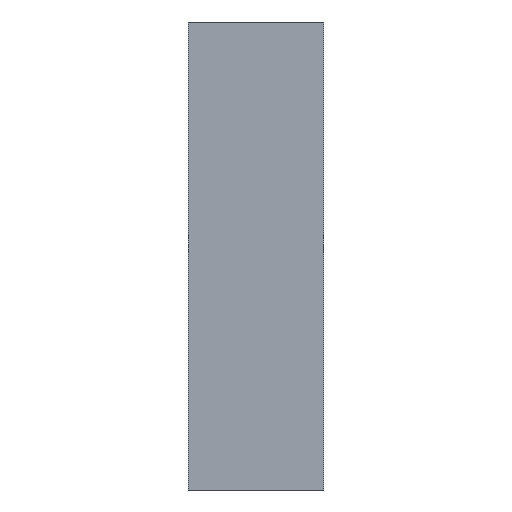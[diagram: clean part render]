
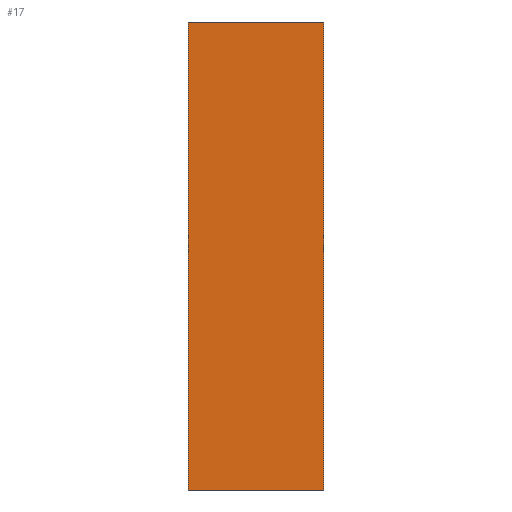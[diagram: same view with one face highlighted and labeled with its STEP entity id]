
A CAD part, left-side view. The second image highlights one B-rep face of the part: STEP entity #17.
In plain terms, the highlighted planar face has unit normal (-1, 0, 0).
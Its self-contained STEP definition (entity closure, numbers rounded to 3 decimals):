
#17 = ADVANCED_FACE('',(#18),#32,.F.);
#18 = FACE_BOUND('',#19,.F.);
#19 = EDGE_LOOP('',(#20,#55,#83,#111));
#20 = ORIENTED_EDGE('',*,*,#21,.F.);
#21 = EDGE_CURVE('',#22,#24,#26,.T.);
#22 = VERTEX_POINT('',#23);
#23 = CARTESIAN_POINT('',(0.,0.,0.));
#24 = VERTEX_POINT('',#25);
#25 = CARTESIAN_POINT('',(0.,0.,131.762));
#26 = SURFACE_CURVE('',#27,(#31,#43),.PCURVE_S1.);
#27 = LINE('',#28,#29);
#28 = CARTESIAN_POINT('',(0.,0.,0.));
#29 = VECTOR('',#30,1.);
#30 = DIRECTION('',(0.,0.,1.));
#31 = PCURVE('',#32,#37);
#32 = PLANE('',#33);
#33 = AXIS2_PLACEMENT_3D('',#34,#35,#36);
#34 = CARTESIAN_POINT('',(0.,0.,0.));
#35 = DIRECTION('',(1.,0.,0.));
#36 = DIRECTION('',(0.,0.,1.));
#37 = DEFINITIONAL_REPRESENTATION('',(#38),#42);
#38 = LINE('',#39,#40);
#39 = CARTESIAN_POINT('',(0.,0.));
#40 = VECTOR('',#41,1.);
#41 = DIRECTION('',(1.,0.));
#42 = ( GEOMETRIC_REPRESENTATION_CONTEXT(2) 
PARAMETRIC_REPRESENTATION_CONTEXT() REPRESENTATION_CONTEXT('2D SPACE',''
  ) );
#43 = PCURVE('',#44,#49);
#44 = PLANE('',#45);
#45 = AXIS2_PLACEMENT_3D('',#46,#47,#48);
#46 = CARTESIAN_POINT('',(0.,0.,0.));
#47 = DIRECTION('',(0.,1.,0.));
#48 = DIRECTION('',(0.,0.,1.));
#49 = DEFINITIONAL_REPRESENTATION('',(#50),#54);
#50 = LINE('',#51,#52);
#51 = CARTESIAN_POINT('',(0.,0.));
#52 = VECTOR('',#53,1.);
#53 = DIRECTION('',(1.,0.));
#54 = ( GEOMETRIC_REPRESENTATION_CONTEXT(2) 
PARAMETRIC_REPRESENTATION_CONTEXT() REPRESENTATION_CONTEXT('2D SPACE',''
  ) );
#55 = ORIENTED_EDGE('',*,*,#56,.T.);
#56 = EDGE_CURVE('',#22,#57,#59,.T.);
#57 = VERTEX_POINT('',#58);
#58 = CARTESIAN_POINT('',(0.,38.1,0.));
#59 = SURFACE_CURVE('',#60,(#64,#71),.PCURVE_S1.);
#60 = LINE('',#61,#62);
#61 = CARTESIAN_POINT('',(0.,0.,0.));
#62 = VECTOR('',#63,1.);
#63 = DIRECTION('',(0.,1.,0.));
#64 = PCURVE('',#32,#65);
#65 = DEFINITIONAL_REPRESENTATION('',(#66),#70);
#66 = LINE('',#67,#68);
#67 = CARTESIAN_POINT('',(0.,0.));
#68 = VECTOR('',#69,1.);
#69 = DIRECTION('',(0.,-1.));
#70 = ( GEOMETRIC_REPRESENTATION_CONTEXT(2) 
PARAMETRIC_REPRESENTATION_CONTEXT() REPRESENTATION_CONTEXT('2D SPACE',''
  ) );
#71 = PCURVE('',#72,#77);
#72 = PLANE('',#73);
#73 = AXIS2_PLACEMENT_3D('',#74,#75,#76);
#74 = CARTESIAN_POINT('',(0.,0.,0.));
#75 = DIRECTION('',(0.,0.,1.));
#76 = DIRECTION('',(1.,0.,0.));
#77 = DEFINITIONAL_REPRESENTATION('',(#78),#82);
#78 = LINE('',#79,#80);
#79 = CARTESIAN_POINT('',(0.,0.));
#80 = VECTOR('',#81,1.);
#81 = DIRECTION('',(0.,1.));
#82 = ( GEOMETRIC_REPRESENTATION_CONTEXT(2) 
PARAMETRIC_REPRESENTATION_CONTEXT() REPRESENTATION_CONTEXT('2D SPACE',''
  ) );
#83 = ORIENTED_EDGE('',*,*,#84,.T.);
#84 = EDGE_CURVE('',#57,#85,#87,.T.);
#85 = VERTEX_POINT('',#86);
#86 = CARTESIAN_POINT('',(0.,38.1,131.762));
#87 = SURFACE_CURVE('',#88,(#92,#99),.PCURVE_S1.);
#88 = LINE('',#89,#90);
#89 = CARTESIAN_POINT('',(0.,38.1,0.));
#90 = VECTOR('',#91,1.);
#91 = DIRECTION('',(0.,0.,1.));
#92 = PCURVE('',#32,#93);
#93 = DEFINITIONAL_REPRESENTATION('',(#94),#98);
#94 = LINE('',#95,#96);
#95 = CARTESIAN_POINT('',(0.,-38.1));
#96 = VECTOR('',#97,1.);
#97 = DIRECTION('',(1.,0.));
#98 = ( GEOMETRIC_REPRESENTATION_CONTEXT(2) 
PARAMETRIC_REPRESENTATION_CONTEXT() REPRESENTATION_CONTEXT('2D SPACE',''
  ) );
#99 = PCURVE('',#100,#105);
#100 = PLANE('',#101);
#101 = AXIS2_PLACEMENT_3D('',#102,#103,#104);
#102 = CARTESIAN_POINT('',(0.,38.1,0.));
#103 = DIRECTION('',(0.,1.,0.));
#104 = DIRECTION('',(0.,0.,1.));
#105 = DEFINITIONAL_REPRESENTATION('',(#106),#110);
#106 = LINE('',#107,#108);
#107 = CARTESIAN_POINT('',(0.,0.));
#108 = VECTOR('',#109,1.);
#109 = DIRECTION('',(1.,0.));
#110 = ( GEOMETRIC_REPRESENTATION_CONTEXT(2) 
PARAMETRIC_REPRESENTATION_CONTEXT() REPRESENTATION_CONTEXT('2D SPACE',''
  ) );
#111 = ORIENTED_EDGE('',*,*,#112,.F.);
#112 = EDGE_CURVE('',#24,#85,#113,.T.);
#113 = SURFACE_CURVE('',#114,(#118,#125),.PCURVE_S1.);
#114 = LINE('',#115,#116);
#115 = CARTESIAN_POINT('',(0.,0.,131.762));
#116 = VECTOR('',#117,1.);
#117 = DIRECTION('',(0.,1.,0.));
#118 = PCURVE('',#32,#119);
#119 = DEFINITIONAL_REPRESENTATION('',(#120),#124);
#120 = LINE('',#121,#122);
#121 = CARTESIAN_POINT('',(131.762,0.));
#122 = VECTOR('',#123,1.);
#123 = DIRECTION('',(0.,-1.));
#124 = ( GEOMETRIC_REPRESENTATION_CONTEXT(2) 
PARAMETRIC_REPRESENTATION_CONTEXT() REPRESENTATION_CONTEXT('2D SPACE',''
  ) );
#125 = PCURVE('',#126,#131);
#126 = PLANE('',#127);
#127 = AXIS2_PLACEMENT_3D('',#128,#129,#130);
#128 = CARTESIAN_POINT('',(0.,0.,131.762));
#129 = DIRECTION('',(0.,0.,1.));
#130 = DIRECTION('',(1.,0.,0.));
#131 = DEFINITIONAL_REPRESENTATION('',(#132),#136);
#132 = LINE('',#133,#134);
#133 = CARTESIAN_POINT('',(0.,0.));
#134 = VECTOR('',#135,1.);
#135 = DIRECTION('',(0.,1.));
#136 = ( GEOMETRIC_REPRESENTATION_CONTEXT(2) 
PARAMETRIC_REPRESENTATION_CONTEXT() REPRESENTATION_CONTEXT('2D SPACE',''
  ) );
